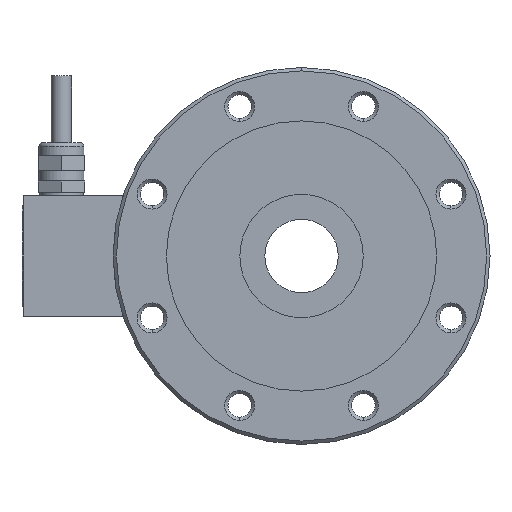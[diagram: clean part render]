
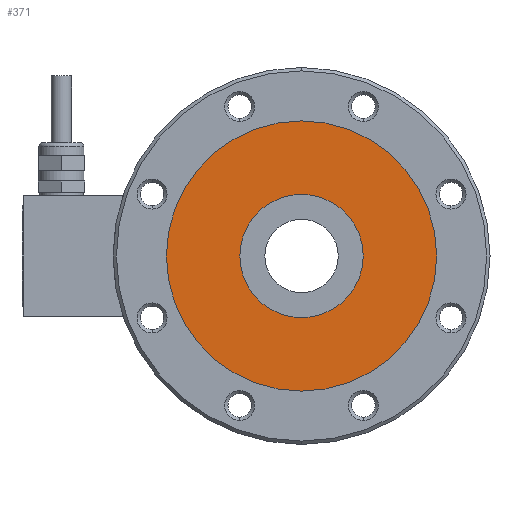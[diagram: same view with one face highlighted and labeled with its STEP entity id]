
A CAD part, front view. The second image highlights one B-rep face of the part: STEP entity #371.
In plain terms, the highlighted planar face has unit normal (0, -1, 0).
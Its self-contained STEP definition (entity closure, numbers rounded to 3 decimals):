
#94 = EDGE_CURVE ( 'NONE', #920, #2805, #260, .T. ) ;
#217 = ORIENTED_EDGE ( 'NONE', *, *, #681, .T. ) ;
#220 = AXIS2_PLACEMENT_3D ( 'NONE', #2548, #1833, #2489 ) ;
#223 = DIRECTION ( 'NONE',  ( 0., 0., -1. ) ) ;
#260 = CIRCLE ( 'NONE', #2690, 18.5 ) ;
#333 = EDGE_CURVE ( 'NONE', #2540, #393, #1100, .T. ) ;
#371 = ADVANCED_FACE ( 'NONE', ( #2426, #2315 ), #1790, .T. ) ;
#393 = VERTEX_POINT ( 'NONE', #3010 ) ;
#435 = CARTESIAN_POINT ( 'NONE',  ( 18.5, 3.5, 0. ) ) ;
#571 = DIRECTION ( 'NONE',  ( 0., -1., 0. ) ) ;
#575 = ORIENTED_EDGE ( 'NONE', *, *, #333, .T. ) ;
#587 = CARTESIAN_POINT ( 'NONE',  ( 0., 3.5, 0. ) ) ;
#633 = DIRECTION ( 'NONE',  ( 0., -1., 0. ) ) ;
#681 = EDGE_CURVE ( 'NONE', #393, #2540, #2102, .T. ) ;
#790 = DIRECTION ( 'NONE',  ( 0., 0., -1. ) ) ;
#794 = EDGE_LOOP ( 'NONE', ( #217, #575 ) ) ;
#880 = CARTESIAN_POINT ( 'NONE',  ( 0., 3.5, 40.5 ) ) ;
#893 = ORIENTED_EDGE ( 'NONE', *, *, #2161, .F. ) ;
#920 = VERTEX_POINT ( 'NONE', #1949 ) ;
#952 = DIRECTION ( 'NONE',  ( 0., -1., 0. ) ) ;
#1100 = CIRCLE ( 'NONE', #1737, 40.5 ) ;
#1215 = DIRECTION ( 'NONE',  ( 0., -1., 0. ) ) ;
#1231 = CARTESIAN_POINT ( 'NONE',  ( 0., 3.5, 0. ) ) ;
#1265 = AXIS2_PLACEMENT_3D ( 'NONE', #1231, #1215, #223 ) ;
#1385 = DIRECTION ( 'NONE',  ( 0., 0., -1. ) ) ;
#1737 = AXIS2_PLACEMENT_3D ( 'NONE', #587, #571, #790 ) ;
#1790 = PLANE ( 'NONE',  #2841 ) ;
#1833 = DIRECTION ( 'NONE',  ( 0., -1., 0. ) ) ;
#1916 = CARTESIAN_POINT ( 'NONE',  ( 0., 3.5, 0. ) ) ;
#1949 = CARTESIAN_POINT ( 'NONE',  ( 0., 3.5, -18.5 ) ) ;
#1968 = CARTESIAN_POINT ( 'NONE',  ( 0., 3.5, 18.5 ) ) ;
#2102 = CIRCLE ( 'NONE', #220, 40.5 ) ;
#2148 = DIRECTION ( 'NONE',  ( 0., 0., -1. ) ) ;
#2161 = EDGE_CURVE ( 'NONE', #2805, #920, #2550, .T. ) ;
#2243 = EDGE_LOOP ( 'NONE', ( #2888, #893 ) ) ;
#2315 = FACE_BOUND ( 'NONE', #2243, .T. ) ;
#2426 = FACE_OUTER_BOUND ( 'NONE', #794, .T. ) ;
#2489 = DIRECTION ( 'NONE',  ( 0., 0., -1. ) ) ;
#2540 = VERTEX_POINT ( 'NONE', #880 ) ;
#2548 = CARTESIAN_POINT ( 'NONE',  ( 0., 3.5, 0. ) ) ;
#2550 = CIRCLE ( 'NONE', #1265, 18.5 ) ;
#2690 = AXIS2_PLACEMENT_3D ( 'NONE', #1916, #952, #2148 ) ;
#2805 = VERTEX_POINT ( 'NONE', #1968 ) ;
#2841 = AXIS2_PLACEMENT_3D ( 'NONE', #435, #633, #1385 ) ;
#2888 = ORIENTED_EDGE ( 'NONE', *, *, #94, .F. ) ;
#3010 = CARTESIAN_POINT ( 'NONE',  ( 0., 3.5, -40.5 ) ) ;
